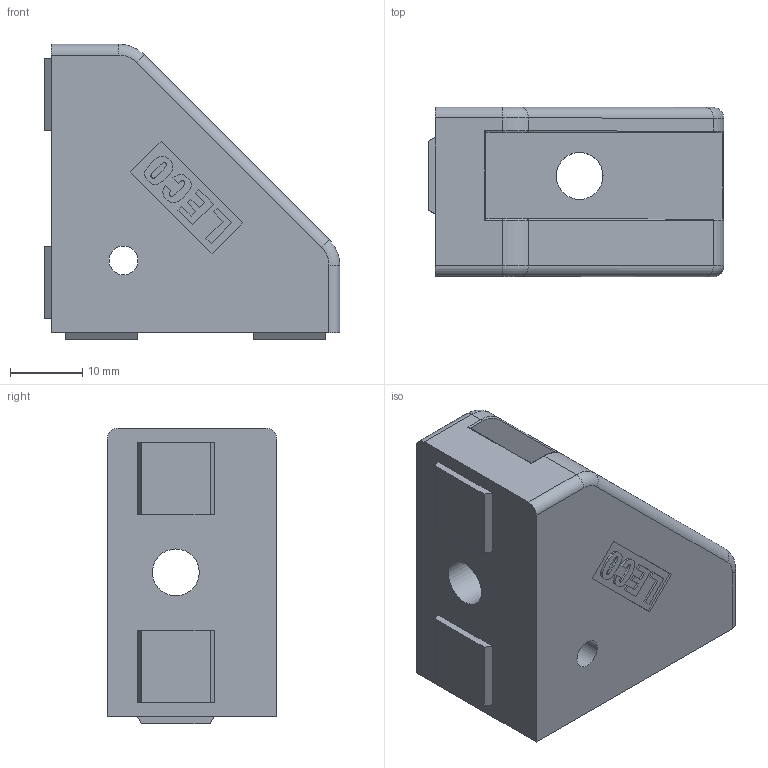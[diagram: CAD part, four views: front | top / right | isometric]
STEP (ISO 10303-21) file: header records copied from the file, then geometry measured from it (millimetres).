
FILE_DESCRIPTION(('STEP AP214'),'1');
FILE_NAME('BL40S-H.stp','2017-07-14T04:15:11',(' '),(' '),'Spatial InterOp 3D',' ',' ');
FILE_SCHEMA(('automotive_design'));
Length unit declared in the file: millimetre
Products named in the file (1): BL40S-H
Bounding box: 41 x 23.5 x 41 mm (x, y, z)
Volume: 19510.3 mm3; surface area: 7649.4 mm2
Topology: 1 solids, 1 shells, 186 faces, 485 edges, 317 vertices
Faces by surface type: plane 92, cylinder 86, torus 8
Full cylindrical faces by diameter (mm): 4 x2, 6.5 x2
Entity records: 7224 total; most frequent: DIRECTION 1030, CARTESIAN_POINT 983, ORIENTED_EDGE 960, EDGE_CURVE 480, AXIS2_PLACEMENT_3D 363, VERTEX_POINT 316, LINE 304, VECTOR 304
